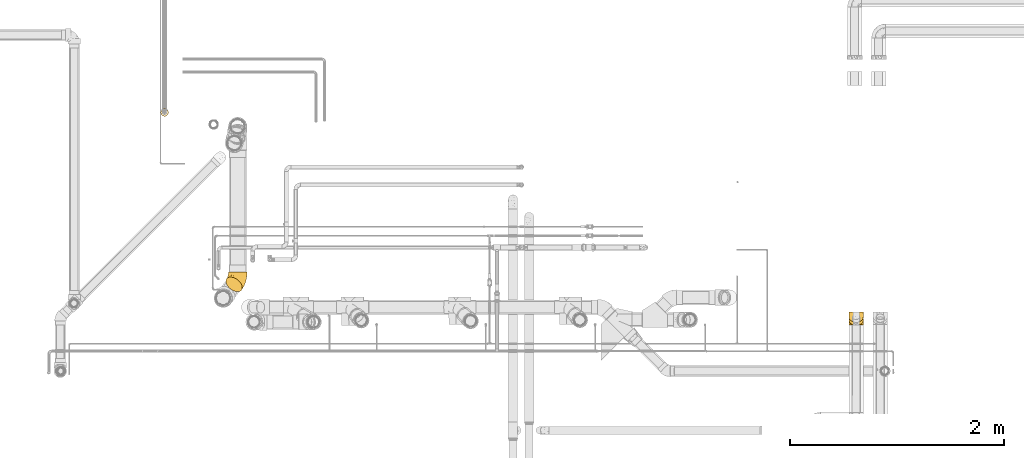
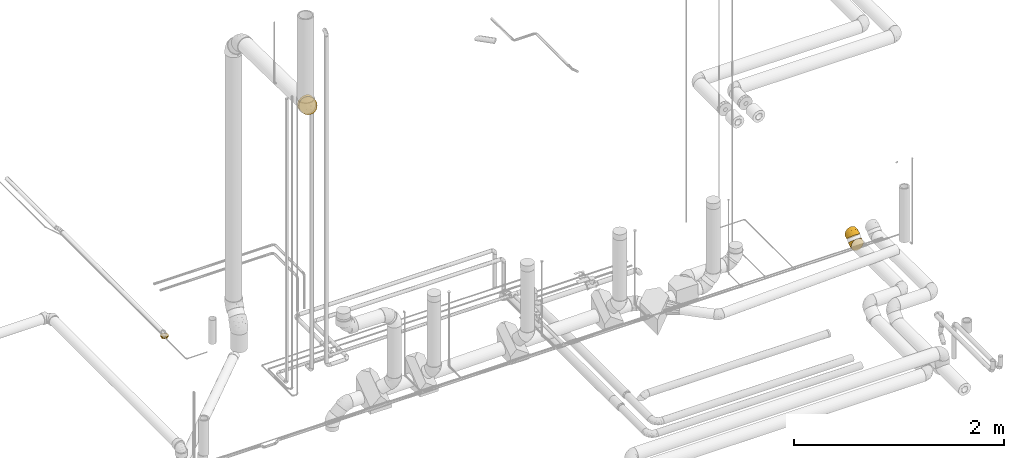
# One storey, part 24 of 156: 4 coverings.
"""IFC2X3 building model written with IfcOpenShell, lengths in millimetres."""

from ifc_helpers import new_model, entity, si_unit, converted_unit, derived_unit, direction, frame, origin_with_axes, place, context, subcontext, project, spatial, open_shell, surface_model, source, transform, mapped, element, save


model = new_model("IFC2X3")

# Units and contexts
model_context = context("Model", 3, precision=0.01, world=frame((0.0, 4.29681676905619e-09, 0.0)), true_north=direction((4.01073788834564e-13, 1.0)))
plan_context = context("Plan", 3, precision=0.01, world=frame((0.0, 4.29681676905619e-09, 0.0)), true_north=direction((4.01073788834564e-13, 1.0)))
body_context = subcontext(model_context, "Body", "Model", "MODEL_VIEW")
ifc_project = project(units=[converted_unit("PLANEANGLEUNIT", "DEGREE", entity("IfcPositiveLengthMeasure", 0.0174532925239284), si_unit("PLANEANGLEUNIT", "RADIAN"), dimensions=[0, 0, 0, 0, 0, 0, 0]), si_unit("AREAUNIT", "SQUARE_METRE"), si_unit("LENGTHUNIT", "METRE", prefix="MILLI"), si_unit("MASSUNIT", "GRAM", prefix="KILO"), si_unit("POWERUNIT", "WATT"), si_unit("PRESSUREUNIT", "PASCAL", prefix="KILO"), si_unit("FORCEUNIT", "NEWTON", prefix="KILO"), si_unit("ELECTRICVOLTAGEUNIT", "VOLT"), si_unit("ELECTRICCURRENTUNIT", "AMPERE"), si_unit("THERMODYNAMICTEMPERATUREUNIT", "DEGREE_CELSIUS"), si_unit("TIMEUNIT", "SECOND"), si_unit("VOLUMEUNIT", "CUBIC_METRE"), derived_unit("LINEARVELOCITYUNIT", [(si_unit("LENGTHUNIT", "METRE"), 1), (si_unit("TIMEUNIT", "SECOND"), -1)]), derived_unit("VOLUMETRICFLOWRATEUNIT", [(si_unit("VOLUMEUNIT", "CUBIC_METRE"), 1), (si_unit("TIMEUNIT", "SECOND"), -1)]), derived_unit("THERMALTRANSMITTANCEUNIT", [(si_unit("POWERUNIT", "WATT"), 1), (si_unit("THERMODYNAMICTEMPERATUREUNIT", "KELVIN"), -1), (si_unit("AREAUNIT", "SQUARE_METRE"), -1)]), derived_unit("SOUNDPRESSUREUNIT", [(si_unit("PRESSUREUNIT", "PASCAL"), 1)])], contexts=[model_context, plan_context])

# Site, building, storey
site_placement = place(None, frame((0.0, -4.29681676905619e-09, 0.0), z_axis=(0.0, 0.0, 1.0), x_axis=(1.0, 0.0, 0.0)))
site = spatial("IfcSite", under=ifc_project, at=site_placement, CompositionType="ELEMENT")
building_placement = place(site_placement, frame((0.0, 4.29681676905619e-09, 0.0), z_axis=(0.0, 0.0, 1.0), x_axis=(1.0, 0.0, 0.0)))
building = spatial("IfcBuilding", under=site, at=building_placement, Name="mc-building", CompositionType="ELEMENT")
storey_placement = place(building_placement, frame((0.0, 0.0, 205200.0), z_axis=(0.0, 0.0, 1.0), x_axis=(1.0, 0.0, 0.0)))
storey = spatial("IfcBuildingStorey", under=building, at=storey_placement, Name="Nivå D + 1,2 m", CompositionType="ELEMENT", Elevation=205200.0)

# Coverings
shared_shape_1 = source(origin_with_axes(), body_context, "Body", "SurfaceModel", [
    surface_model("IfcShellBasedSurfaceModel", [(-22.21356, 109.13223, 15.15456), (-19.15277, 106.65497, 29.84685), (-7.37421, 97.12198, 56.08822), (-19.15516, 106.65691, -29.83841), (-23.24442, 109.96656, 0.0), (-14.15559, 102.61051, 43.63085), (21.3822, 73.84793, 81.98922), (-14.1599, 102.61399, -43.62124), (0.98519, 90.35629, 66.84099), (10.66867, 82.51895, 75.56289), (32.80056, 64.60646, 85.92482), (44.57591, 55.07607, -87.25), (0.97795, 90.36214, -66.83318), (-7.38028, 97.12689, -56.07891), (-22.21434, 109.13286, -15.14884), (10.6612, 82.525, -75.55734), (32.79611, 64.61006, -85.92382), (21.37564, 73.85324, -81.98615), (44.57591, 55.07607, 87.25), (56.3557, 45.54207, 85.92382), (67.77617, 36.29889, 81.98615), (78.49061, 27.62714, 75.55734), (88.16662, 19.79585, -66.84099), (96.5321, 13.02524, 56.07891), (108.30697, 3.49522, 29.83841), (111.36616, 1.01926, 15.14884), (103.31172, 7.53814, 43.62124), (88.17386, 19.78999, 66.83318), (111.36538, 1.0199, -15.15456), (78.48315, 27.63319, -75.56289), (56.35125, 45.54567, -85.92482), (67.76961, 36.3042, -81.98922), (103.3074, 7.54163, -43.63085), (96.52602, 13.03015, -56.08822), (108.30458, 3.49716, -29.84685), (112.39623, 0.18557, 0.0), (-70.85467, 84.27703, -22.58196), (-70.85467, 61.69507, 61.69507), (-70.85467, 87.25, 0.0), (-70.85467, 61.69507, -61.69507), (-70.85467, 75.56072, -43.625), (-70.85467, 43.625, -75.56072), (-70.85467, 22.58196, -84.27703), (-70.85467, 84.27703, 22.58196), (-70.85467, 75.56072, 43.625), (-70.85467, 22.58196, 84.27703), (-70.85467, 43.625, 75.56072), (-70.85467, 0.0, 87.25), (-70.85467, -22.58196, -84.27703), (-70.85467, -61.69507, -61.69507), (-70.85467, -43.625, -75.56072), (-70.85467, -84.27703, -22.58196), (-70.85467, -75.56072, -43.625), (-70.85467, -22.58196, 84.27703), (-70.85467, -43.625, 75.56072), (-70.85467, -75.56072, 43.625), (-70.85467, -61.69507, 61.69507), (-70.85467, -87.25, 0.0), (-70.85467, -84.27703, 22.58196), (-70.85467, 0.0, -87.25), (67.86408, -32.77079, 35.37128), (24.80087, -51.9765, 46.81339), (35.20738, -55.0358, 32.39661), (-18.81024, -81.43356, 0.0), (-31.79079, -81.46484, 20.69914), (4.73261, -71.13233, 24.3776), (30.66611, -64.27123, 0.0), (53.03014, -49.98966, 17.49613), (-21.53708, -49.18442, 67.53321), (-25.21123, -65.54723, 51.59539), (11.11356, -23.28834, 76.56253), (46.55145, 1.97483, 77.91799), (16.7774, 2.71907, 84.53595), (84.57464, -25.26237, 21.20345), (-22.7929, -20.58251, 82.87538), (-38.07165, 3.66381, 87.25), (-25.46965, -36.2811, 76.60007), (-29.67477, -75.77367, 35.89797), (16.7279, -43.26945, 61.06093), (-6.90627, 14.47443, 87.25), (75.13299, -36.60987, 0.0), (54.98712, -22.11943, 59.82784), (21.10362, 31.89845, 87.25), (-51.3909, 55.12137, 69.22008), (-50.15771, 71.96934, 53.11443), (-30.78542, 32.98653, 83.21254), (-2.12923, 38.02072, 85.29012), (-28.45471, 59.63761, 71.47388), (-49.90973, 40.02601, 78.52935), (-49.27757, 88.88555, 19.24604), (-32.00175, 97.36094, 22.58668), (-44.47865, 93.22009, 0.0), (-3.99908, 59.10445, 79.07691), (-39.88076, 86.3649, 36.87919), (-56.08082, 90.594, 0.0), (-26.35974, 93.10558, 40.17859), (-55.16574, 81.33977, 35.87878), (-18.86431, 78.98133, 61.69936), (-34.59266, 71.58011, 59.8769), (-33.86153, 101.59333, 0.0), (-54.67732, 70.88815, -53.11443), (-45.95314, 56.42221, -69.22008), (-49.44871, 89.35837, -16.8693), (-34.62511, 95.47241, -22.57953), (-28.50997, 26.42676, -85.09065), (-44.77725, 39.30622, -79.3697), (-21.05681, 48.60317, -79.07267), (-3.02019, 64.04877, -77.44832), (-37.68465, 78.98185, -50.04045), (-53.61238, 82.83448, -33.38913), (-24.76884, 89.88688, -46.32111), (-38.07165, 3.66381, -87.25), (5.31752, 48.24052, -84.27577), (-6.90627, 14.47443, -87.25), (21.10362, 31.89845, -87.25), (-33.06427, 68.33804, -63.46117), (-18.86946, 78.98822, -61.69077), (-12.67052, -11.32645, -84.53713), (4.73196, -71.131, -24.38266), (53.02975, -49.98879, -17.50079), (-32.54201, -32.24987, -79.3559), (11.10744, -23.28191, -76.56714), (-29.6774, -75.77345, -35.8995), (24.7962, -51.9722, -46.82265), (-21.52798, -49.18255, -67.53289), (-31.78955, -81.46438, -20.70017), (-25.21617, -65.54816, -51.59556), (54.98045, -22.11432, -59.8364), (47.39432, -0.58521, -76.59237), (31.24713, 7.15399, -83.32777), (84.57371, -25.26023, -21.21231), (67.8603, -32.76872, -35.38015), (19.87472, -35.62584, -66.25842), (35.20169, -55.03458, -32.40588)], [open_shell([[[0, 1, 2]], [[0, 3, 4]], [[2, 1, 5]], [[6, 7, 0]], [[2, 8, 9]], [[2, 9, 6]], [[0, 2, 6]], [[10, 11, 6]], [[3, 0, 7]], [[12, 13, 7]], [[3, 14, 4]], [[15, 12, 16]], [[15, 16, 17]], [[12, 7, 16]], [[7, 6, 16]], [[6, 11, 16]], [[10, 18, 11]], [[18, 19, 20]], [[20, 21, 18]], [[11, 21, 22]], [[22, 21, 23]], [[24, 25, 23]], [[24, 23, 26]], [[23, 21, 27]], [[28, 23, 25]], [[22, 29, 30]], [[31, 30, 29]], [[11, 22, 30]], [[32, 22, 28]], [[32, 33, 22]], [[32, 28, 34]], [[23, 28, 22]], [[25, 35, 28]], [[11, 18, 21]], [[36, 37, 38]], [[39, 36, 40]], [[37, 36, 41]], [[41, 36, 39]], [[37, 41, 42]], [[43, 37, 44]], [[43, 38, 37]], [[37, 45, 46]], [[42, 45, 37]], [[42, 47, 45]], [[42, 48, 47]], [[48, 49, 47]], [[49, 48, 50]], [[51, 47, 52]], [[47, 49, 52]], [[53, 47, 51]], [[54, 55, 56]], [[57, 54, 53]], [[55, 57, 58]], [[57, 55, 54]], [[53, 51, 57]], [[48, 42, 59]], [[60, 61, 62]], [[57, 63, 64]], [[65, 63, 66]], [[67, 65, 66]], [[54, 56, 68]], [[55, 69, 56]], [[70, 71, 72]], [[60, 67, 73]], [[74, 75, 53]], [[68, 70, 76]], [[61, 69, 77]], [[78, 70, 68]], [[74, 79, 75]], [[75, 47, 53]], [[74, 70, 72]], [[19, 72, 20]], [[74, 76, 70]], [[64, 65, 77]], [[67, 66, 80]], [[71, 27, 21]], [[81, 60, 23]], [[23, 60, 26]], [[73, 80, 25]], [[81, 27, 71]], [[24, 60, 73]], [[25, 80, 35]], [[76, 53, 54]], [[74, 72, 79]], [[64, 77, 58]], [[67, 60, 62]], [[82, 19, 18]], [[79, 72, 82]], [[81, 71, 70]], [[23, 27, 81]], [[72, 19, 82]], [[71, 21, 20]], [[77, 69, 55]], [[81, 78, 61]], [[81, 61, 60]], [[69, 68, 56]], [[69, 61, 78]], [[60, 24, 26]], [[58, 77, 55]], [[72, 71, 20]], [[61, 77, 65]], [[57, 64, 58]], [[63, 65, 64]], [[80, 73, 67]], [[24, 73, 25]], [[53, 76, 74]], [[54, 68, 76]], [[61, 65, 62]], [[67, 62, 65]], [[70, 78, 81]], [[69, 78, 68]], [[83, 84, 37]], [[45, 47, 75]], [[85, 75, 79]], [[86, 85, 79]], [[87, 83, 88]], [[46, 83, 37]], [[89, 90, 91]], [[92, 87, 85]], [[89, 93, 90]], [[89, 91, 94]], [[1, 90, 95]], [[45, 75, 85]], [[93, 89, 96]], [[84, 93, 96]], [[95, 2, 5]], [[97, 98, 87]], [[86, 79, 82]], [[44, 84, 96]], [[97, 92, 8]], [[92, 9, 8]], [[6, 92, 86]], [[10, 82, 18]], [[98, 97, 95]], [[98, 93, 84]], [[85, 86, 92]], [[94, 43, 89]], [[8, 2, 97]], [[45, 85, 88]], [[92, 97, 87]], [[2, 95, 97]], [[0, 99, 90]], [[44, 37, 84]], [[10, 86, 82]], [[93, 95, 90]], [[86, 10, 6]], [[0, 90, 1]], [[96, 43, 44]], [[92, 6, 9]], [[43, 96, 89]], [[94, 38, 43]], [[88, 83, 46]], [[83, 87, 98]], [[95, 93, 98]], [[1, 95, 5]], [[45, 88, 46]], [[87, 88, 85]], [[99, 0, 4]], [[99, 91, 90]], [[83, 98, 84]], [[100, 101, 39]], [[91, 102, 94]], [[40, 100, 39]], [[103, 102, 91]], [[104, 105, 106]], [[107, 12, 15]], [[103, 108, 109]], [[110, 3, 7]], [[59, 42, 111]], [[36, 38, 94]], [[106, 112, 104]], [[107, 17, 112]], [[111, 42, 104]], [[106, 105, 101]], [[113, 112, 114]], [[115, 106, 101]], [[4, 14, 99]], [[100, 108, 115]], [[13, 12, 116]], [[12, 107, 116]], [[14, 3, 103]], [[110, 7, 13]], [[105, 42, 41]], [[108, 100, 109]], [[110, 13, 116]], [[113, 111, 104]], [[17, 16, 112]], [[116, 108, 110]], [[40, 36, 109]], [[113, 104, 112]], [[16, 11, 114]], [[16, 114, 112]], [[94, 102, 36]], [[107, 112, 106]], [[41, 39, 101]], [[116, 115, 108]], [[36, 102, 109]], [[14, 103, 99]], [[109, 100, 40]], [[103, 109, 102]], [[42, 105, 104]], [[41, 101, 105]], [[108, 103, 110]], [[3, 110, 103]], [[107, 106, 115]], [[17, 107, 15]], [[103, 91, 99]], [[115, 116, 107]], [[100, 115, 101]], [[117, 48, 111]], [[118, 119, 66]], [[120, 48, 117]], [[117, 121, 120]], [[113, 117, 111]], [[59, 111, 48]], [[122, 123, 118]], [[50, 124, 49]], [[57, 51, 125]], [[123, 122, 126]], [[48, 120, 50]], [[126, 122, 52]], [[122, 51, 52]], [[124, 50, 120]], [[22, 127, 128]], [[118, 66, 63]], [[124, 120, 121]], [[129, 113, 114]], [[129, 114, 30]], [[130, 119, 131]], [[114, 11, 30]], [[49, 126, 52]], [[124, 132, 126]], [[129, 117, 113]], [[22, 33, 127]], [[131, 133, 123]], [[122, 125, 51]], [[129, 128, 121]], [[132, 124, 121]], [[33, 131, 127]], [[131, 123, 127]], [[33, 32, 131]], [[128, 31, 29]], [[133, 119, 118]], [[28, 35, 80]], [[123, 126, 132]], [[66, 119, 80]], [[130, 80, 119]], [[132, 128, 127]], [[32, 34, 131]], [[121, 117, 129]], [[31, 129, 30]], [[124, 126, 49]], [[130, 34, 28]], [[122, 118, 125]], [[118, 63, 125]], [[57, 125, 63]], [[31, 128, 129]], [[128, 29, 22]], [[34, 130, 131]], [[80, 130, 28]], [[119, 133, 131]], [[118, 123, 133]], [[128, 132, 121]], [[123, 132, 127]]])]),
])
covering_1_placement = place(storey_placement, frame((324308.8595, 462982.08154, 7541.05024000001), z_axis=(-0.782815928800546, -0.0103689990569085, -0.622166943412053), x_axis=(-1.81753429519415e-07, -0.999861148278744, 0.0166638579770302)))
element("IfcCovering", 1, at=covering_1_placement, inside=storey, Name="BI17T - Cellegummi 13 mm SPV fett", PredefinedType="INSULATION", context=body_context, shape_type="MappedRepresentation", body=[
    mapped(shared_shape_1, transform((0.0, 0.0, 0.0), scale=1.0)),
])
shared_shape_2 = source(origin_with_axes(), body_context, "Body", "SurfaceModel", [
    surface_model("IfcShellBasedSurfaceModel", [(-26.92388, 57.87557, 34.73714), (-26.92388, 33.25277, 58.74099), (-26.92388, 47.11836, 48.33333), (-26.92388, 64.81475, 18.84935), (-26.92388, 64.81475, -18.84935), (-26.92388, 0.0, 67.5), (-26.92388, 17.19351, 65.27353), (-26.92388, -58.45672, -33.75), (-26.92388, -17.47029, -65.19999), (-26.92388, -33.75, -58.45672), (-26.92388, -47.72971, -47.72971), (-26.92388, -58.45672, 33.75), (-26.92388, -67.5, 0.0), (-26.92388, -65.19999, 17.47029), (-21.88615, 59.96226, -34.73714), (-26.83126, 64.90738, -18.84935), (-26.79289, 64.86901, 18.84935), (-14.27965, 52.35577, 48.33333), (-4.4752, 42.55132, 58.74099), (-21.88615, 59.96226, 34.73714), (42.90291, -4.82679, -58.45672), (31.39142, 6.6847, -65.19999), (60.3732, -22.29708, -33.75), (52.78806, -14.71194, -47.72971), (66.76777, -28.69165, 0.0), (65.14142, -27.0653, -17.47029), (-17.24708, 26.63533, -62.52499), (-26.92388, 17.19351, -65.27353), (-26.92388, 33.25277, -58.74099), (-20.86956, 54.56437, -41.88204), (-26.88225, 60.09848, -29.68711), (-26.84061, 62.32138, -24.63708), (6.88041, 31.19571, -65.27353), (19.03806, 19.03806, -67.5), (10.95362, 13.63621, -67.5), (-2.88083, 18.40375, -66.31994), (-12.63723, 13.703, -66.46933), (-17.38764, 1.89688, -67.5), (-26.92388, 0.0, -67.5), (-17.55621, 42.38444, -53.98417), (-7.0687, 30.77632, -62.52499), (-14.27965, 52.35577, -48.33333), (-4.4752, 42.55132, -58.74099), (-12.89743, 44.93821, -53.98417), (-26.92388, 57.87557, -34.73714), (-23.16554, 51.91787, -43.76586), (-2.04946, 4.94783, -67.5), (-22.65626, 40.89597, -53.98417), (-26.92388, 47.11836, -48.33333), (-26.79289, 64.86901, -18.84935), (18.44376, -44.52716, -41.0914), (-1.14578, -37.91197, -53.55135), (26.12182, -26.87784, -53.55135), (-4.43545, -9.52295, -66.2671), (13.59116, -2.12316, -66.156), (5.99678, -19.65533, -62.36187), (-3.82332, -60.24939, -25.83113), (-3.79342, -53.48444, -38.09739), (-14.67022, 2.4374, -67.5), (-26.92388, -65.19999, -17.47029), (-2.15176, -63.92927, -12.73631), (22.51741, -54.36183, -20.85864), (24.52968, -11.62224, -61.73502), (8.4943, 11.99295, -67.5), (40.50156, -35.13685, -38.09739), (-11.40858, -21.90434, -63.359), (45.30625, -39.89926, -25.83113), (39.32612, -49.74837, 0.0), (46.72634, -43.6833, -12.73631), (7.36964, -62.98517, 0.0), (-3.79342, -53.48444, 38.09739), (-3.82332, -60.24939, 25.83113), (18.44376, -44.52716, 41.0914), (-2.15176, -63.92927, 12.73631), (22.51741, -54.36183, 20.85864), (-11.40858, -21.90434, 63.359), (-1.14578, -37.91197, 53.55135), (5.99678, -19.65533, 62.36187), (52.78806, -14.71194, 47.72971), (42.90291, -4.82679, 58.45672), (26.12182, -26.87784, 53.55135), (-4.43545, -9.52295, 66.2671), (24.52968, -11.62224, 61.73502), (13.59116, -2.12316, 66.156), (31.39142, 6.6847, 65.19999), (-26.92388, -47.72971, 47.72971), (-26.92388, -17.47029, 65.19999), (-26.92388, -33.75, 58.45672), (45.30625, -39.89926, 25.83113), (40.50156, -35.13685, 38.09739), (65.14142, -27.0653, 17.47029), (46.72634, -43.6833, 12.73631), (-14.67022, 2.4374, 67.5), (19.03806, 19.03806, 67.5), (8.4943, 11.99295, 67.5), (-2.04946, 4.94783, 67.5), (60.3732, -22.29708, 33.75), (-16.76382, 26.76047, 62.52499), (-17.55621, 42.38445, 53.98417), (-22.65626, 40.89597, 53.98417), (-6.63849, 31.02955, 62.52499), (-12.89743, 44.93821, 53.98417), (-25.0887, 63.04705, 24.63708), (-23.82583, 53.33984, 41.88204), (-20.33097, 53.09199, 43.76586), (-17.38764, 1.89688, 67.5), (-10.97637, 15.05047, 66.31994), (-0.75362, 18.62536, 66.46933), (6.88041, 31.19571, 65.27353), (10.95362, 13.63621, 67.5), (-23.48742, 61.50466, 29.68711)], [open_shell([[[0, 1, 2]], [[0, 3, 4]], [[1, 5, 6]], [[7, 8, 9]], [[7, 9, 10]], [[11, 12, 13]], [[14, 15, 16]], [[17, 18, 19]], [[20, 21, 22]], [[23, 20, 22]], [[24, 25, 22]], [[26, 27, 28]], [[29, 30, 31]], [[32, 33, 34]], [[32, 34, 35]], [[36, 27, 26]], [[37, 38, 27]], [[39, 40, 26]], [[41, 42, 43]], [[44, 30, 45]], [[37, 36, 46]], [[29, 39, 45]], [[31, 14, 29]], [[30, 29, 45]], [[47, 28, 48]], [[35, 46, 36]], [[31, 49, 14]], [[43, 29, 41]], [[40, 39, 43]], [[36, 26, 35]], [[29, 14, 41]], [[26, 28, 47]], [[42, 32, 40]], [[27, 36, 37]], [[35, 26, 40]], [[32, 35, 40]], [[34, 46, 35]], [[47, 45, 39]], [[44, 45, 48]], [[45, 47, 48]], [[26, 47, 39]], [[40, 43, 42]], [[29, 43, 39]], [[50, 51, 52]], [[10, 9, 51]], [[53, 54, 55]], [[50, 56, 57]], [[53, 8, 58]], [[50, 57, 51]], [[59, 60, 12]], [[56, 60, 59]], [[56, 50, 61]], [[56, 59, 7]], [[51, 55, 52]], [[62, 52, 55]], [[46, 53, 58]], [[54, 63, 33]], [[52, 23, 64]], [[54, 62, 55]], [[54, 53, 46]], [[54, 33, 21]], [[53, 55, 65]], [[51, 9, 65]], [[52, 20, 23]], [[64, 66, 50]], [[24, 67, 68]], [[66, 64, 22]], [[8, 38, 58]], [[51, 65, 55]], [[53, 65, 8]], [[9, 8, 65]], [[21, 20, 62]], [[56, 7, 57]], [[60, 61, 69]], [[7, 10, 57]], [[51, 57, 10]], [[61, 60, 56]], [[12, 60, 69]], [[68, 66, 25]], [[50, 66, 61]], [[52, 64, 50]], [[23, 22, 64]], [[24, 68, 25]], [[61, 68, 67]], [[21, 62, 54]], [[52, 62, 20]], [[54, 46, 63]], [[70, 71, 72]], [[12, 69, 73]], [[11, 71, 70]], [[74, 71, 73]], [[75, 76, 77]], [[78, 79, 80]], [[77, 81, 75]], [[77, 82, 83]], [[76, 72, 80]], [[82, 84, 83]], [[76, 85, 70]], [[86, 75, 81]], [[69, 67, 74]], [[76, 75, 87]], [[72, 88, 89]], [[90, 91, 24]], [[92, 5, 86]], [[88, 91, 90]], [[86, 81, 92]], [[72, 89, 80]], [[83, 93, 94]], [[82, 80, 79]], [[92, 81, 95]], [[81, 83, 95]], [[87, 85, 76]], [[77, 76, 80]], [[88, 90, 96]], [[86, 87, 75]], [[77, 83, 81]], [[88, 96, 89]], [[91, 74, 67]], [[96, 78, 89]], [[80, 89, 78]], [[74, 91, 88]], [[24, 91, 67]], [[73, 71, 13]], [[72, 71, 74]], [[76, 70, 72]], [[85, 11, 70]], [[12, 73, 13]], [[74, 73, 69]], [[80, 82, 77]], [[84, 82, 79]], [[93, 83, 84]], [[94, 95, 83]], [[97, 98, 99]], [[100, 18, 101]], [[102, 0, 103]], [[1, 6, 97]], [[103, 98, 104]], [[105, 106, 6]], [[107, 108, 100]], [[3, 0, 102]], [[6, 5, 105]], [[107, 100, 106]], [[95, 109, 107]], [[2, 103, 0]], [[93, 108, 109]], [[98, 97, 100]], [[104, 19, 110]], [[103, 110, 102]], [[18, 17, 101]], [[1, 99, 2]], [[106, 95, 107]], [[100, 108, 18]], [[110, 103, 104]], [[103, 2, 99]], [[108, 107, 109]], [[106, 100, 97]], [[6, 106, 97]], [[105, 95, 106]], [[101, 104, 98]], [[19, 104, 17]], [[97, 99, 1]], [[103, 99, 98]], [[104, 101, 17]], [[100, 101, 98]], [[86, 5, 4]], [[11, 48, 28]], [[44, 87, 4]], [[48, 85, 44]], [[1, 0, 4]], [[5, 1, 4]], [[11, 28, 27]], [[8, 12, 38]], [[8, 7, 12]], [[59, 12, 7]], [[85, 87, 44]], [[86, 4, 87]], [[85, 48, 11]], [[27, 12, 11]], [[12, 27, 38]], [[16, 84, 14]], [[41, 14, 78]], [[41, 96, 42]], [[32, 42, 96]], [[93, 19, 18]], [[93, 18, 108]], [[93, 16, 19]], [[24, 33, 32]], [[21, 24, 22]], [[24, 32, 96]], [[16, 93, 84]], [[14, 84, 79]], [[41, 78, 96]], [[79, 78, 14]], [[24, 96, 90]], [[21, 33, 24]], [[61, 66, 68]], [[61, 67, 69]], [[22, 25, 66]], [[88, 72, 74]], [[71, 11, 13]]])]),
])
covering_2_placement = place(storey_placement, frame((330095.2903, 462651.63155, 4230.5), z_axis=(0.999999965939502, 0.0, -0.00026099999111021), x_axis=(0.0, -1.0, 0.0)))
element("IfcCovering", 2, at=covering_2_placement, inside=storey, Name="BI10T - Cellegummi 18-32 mm kalde rør", PredefinedType="INSULATION", context=body_context, shape_type="MappedRepresentation", body=[
    mapped(shared_shape_2, transform((0.0, 0.0, 0.0), scale=1.0)),
])
shared_shape_3 = source(origin_with_axes(), body_context, "Body", "SurfaceModel", [
    surface_model("IfcShellBasedSurfaceModel", [(-26.92388, 57.87557, 34.73714), (-26.92388, 33.25277, 58.74099), (-26.92388, 47.11836, 48.33333), (-26.92388, -58.45672, -33.75), (-26.92388, -33.75, -58.45672), (-26.92388, -47.72971, -47.72971), (-21.88615, 59.96226, -34.73714), (-26.83126, 64.90738, -18.84935), (-26.79289, 64.86901, 18.84935), (-14.27965, 52.35577, 48.33333), (-4.4752, 42.55132, 58.74099), (-21.88615, 59.96226, 34.73714), (52.78806, -14.71194, -47.72971), (42.90291, -4.82679, -58.45672), (60.3732, -22.29708, -33.75), (-17.24708, 26.63533, -62.52499), (-26.92388, 17.19351, -65.27353), (-26.92388, 33.25277, -58.74099), (-20.86956, 54.56437, -41.88204), (-26.88225, 60.09848, -29.68711), (-26.84061, 62.32138, -24.63708), (6.88041, 31.19571, -65.27353), (19.03806, 19.03806, -67.5), (10.95362, 13.63621, -67.5), (-2.88083, 18.40375, -66.31994), (-12.63723, 13.703, -66.46933), (-17.38764, 1.89688, -67.5), (-26.92388, 0.0, -67.5), (-17.55621, 42.38444, -53.98417), (-7.0687, 30.77632, -62.52499), (-14.27965, 52.35577, -48.33333), (-4.4752, 42.55132, -58.74099), (-12.89743, 44.93821, -53.98417), (-26.92388, 57.87557, -34.73714), (-23.16554, 51.91787, -43.76586), (-2.04946, 4.94783, -67.5), (-22.65626, 40.89597, -53.98417), (-26.92388, 47.11836, -48.33333), (-26.79289, 64.86901, -18.84935), (18.44376, -44.52716, -41.0914), (-1.14578, -37.91197, -53.55135), (26.12182, -26.87784, -53.55135), (-4.43545, -9.52295, -66.2671), (13.59116, -2.12316, -66.156), (5.99678, -19.65533, -62.36187), (-3.82332, -60.24939, -25.83113), (-3.79342, -53.48444, -38.09739), (-26.92388, -17.47029, -65.19999), (-14.67022, 2.4374, -67.5), (-26.92388, -65.19999, -17.47029), (-2.15176, -63.92927, -12.73631), (-26.92388, -67.5, 0.0), (22.51741, -54.36183, -20.85864), (24.52968, -11.62224, -61.73502), (8.4943, 11.99295, -67.5), (40.50156, -35.13685, -38.09739), (31.39142, 6.6847, -65.19999), (-11.40858, -21.90434, -63.359), (39.32612, -49.74837, 0.0), (7.36964, -62.98517, 0.0), (45.30625, -39.89926, -25.83113), (46.72634, -43.6833, -12.73631), (66.76777, -28.69165, 0.0), (65.14142, -27.0653, -17.47029), (-3.79342, -53.48444, 38.09739), (-3.82332, -60.24939, 25.83113), (18.44376, -44.52716, 41.0914), (-2.15176, -63.92927, 12.73631), (-26.92388, -58.45672, 33.75), (22.51741, -54.36183, 20.85864), (-11.40858, -21.90434, 63.359), (-1.14578, -37.91197, 53.55135), (5.99678, -19.65533, 62.36187), (52.78806, -14.71194, 47.72971), (42.90291, -4.82679, 58.45672), (26.12182, -26.87784, 53.55135), (-4.43545, -9.52295, 66.2671), (24.52968, -11.62224, 61.73502), (13.59116, -2.12316, 66.156), (31.39142, 6.6847, 65.19999), (-26.92388, -47.72971, 47.72971), (-26.92388, -17.47029, 65.19999), (-26.92388, -33.75, 58.45672), (45.30625, -39.89926, 25.83113), (40.50156, -35.13685, 38.09739), (-26.92388, -65.19999, 17.47029), (65.14142, -27.0653, 17.47029), (46.72634, -43.6833, 12.73631), (-14.67022, 2.4374, 67.5), (-26.92388, 0.0, 67.5), (19.03806, 19.03806, 67.5), (8.4943, 11.99295, 67.5), (-2.04946, 4.94783, 67.5), (60.3732, -22.29708, 33.75), (-16.76382, 26.76047, 62.52499), (-17.55621, 42.38445, 53.98417), (-22.65626, 40.89597, 53.98417), (-6.63849, 31.02955, 62.52499), (-12.89743, 44.93821, 53.98417), (-25.0887, 63.04705, 24.63708), (-23.82583, 53.33984, 41.88204), (-26.92388, 17.19351, 65.27353), (-20.33097, 53.09199, 43.76586), (-17.38764, 1.89688, 67.5), (-10.97637, 15.05047, 66.31994), (-0.75362, 18.62536, 66.46933), (6.88041, 31.19571, 65.27353), (-26.92388, 64.81475, 18.84935), (10.95362, 13.63621, 67.5), (-23.48742, 61.50466, 29.68711), (-26.92388, 64.81475, -18.84935)], [open_shell([[[0, 1, 2]], [[3, 4, 5]], [[6, 7, 8]], [[9, 10, 11]], [[12, 13, 14]], [[15, 16, 17]], [[18, 19, 20]], [[21, 22, 23]], [[21, 23, 24]], [[25, 16, 15]], [[26, 27, 16]], [[28, 29, 15]], [[30, 31, 32]], [[33, 19, 34]], [[26, 25, 35]], [[18, 28, 34]], [[20, 6, 18]], [[19, 18, 34]], [[36, 17, 37]], [[24, 35, 25]], [[20, 38, 6]], [[32, 18, 30]], [[29, 28, 32]], [[25, 15, 24]], [[18, 6, 30]], [[15, 17, 36]], [[31, 21, 29]], [[16, 25, 26]], [[24, 15, 29]], [[21, 24, 29]], [[23, 35, 24]], [[36, 34, 28]], [[33, 34, 37]], [[34, 36, 37]], [[15, 36, 28]], [[29, 32, 31]], [[18, 32, 28]], [[39, 40, 41]], [[5, 4, 40]], [[42, 43, 44]], [[39, 45, 46]], [[42, 47, 48]], [[39, 46, 40]], [[49, 50, 51]], [[45, 50, 49]], [[45, 39, 52]], [[45, 49, 3]], [[40, 44, 41]], [[53, 41, 44]], [[35, 42, 48]], [[43, 54, 22]], [[41, 12, 55]], [[43, 53, 44]], [[43, 42, 35]], [[43, 22, 56]], [[42, 44, 57]], [[40, 4, 57]], [[58, 59, 52]], [[60, 61, 52]], [[41, 13, 12]], [[55, 60, 39]], [[62, 58, 61]], [[60, 55, 14]], [[60, 14, 63]], [[47, 27, 48]], [[40, 57, 44]], [[42, 57, 47]], [[4, 47, 57]], [[56, 13, 53]], [[45, 3, 46]], [[50, 52, 59]], [[3, 5, 46]], [[40, 46, 5]], [[52, 50, 45]], [[51, 50, 59]], [[61, 60, 63]], [[39, 60, 52]], [[41, 55, 39]], [[12, 14, 55]], [[62, 61, 63]], [[52, 61, 58]], [[56, 53, 43]], [[41, 53, 13]], [[43, 35, 54]], [[64, 65, 66]], [[51, 59, 67]], [[68, 65, 64]], [[69, 65, 67]], [[70, 71, 72]], [[73, 74, 75]], [[72, 76, 70]], [[72, 77, 78]], [[71, 66, 75]], [[77, 79, 78]], [[71, 80, 64]], [[81, 70, 76]], [[59, 58, 69]], [[71, 70, 82]], [[66, 83, 84]], [[66, 69, 83]], [[68, 85, 65]], [[86, 87, 62]], [[88, 89, 81]], [[83, 87, 86]], [[81, 76, 88]], [[66, 84, 75]], [[78, 90, 91]], [[77, 75, 74]], [[88, 76, 92]], [[76, 78, 92]], [[82, 80, 71]], [[72, 71, 75]], [[83, 86, 93]], [[81, 82, 70]], [[72, 78, 76]], [[83, 93, 84]], [[87, 69, 58]], [[93, 73, 84]], [[75, 84, 73]], [[69, 87, 83]], [[62, 87, 58]], [[67, 65, 85]], [[66, 65, 69]], [[71, 64, 66]], [[80, 68, 64]], [[51, 67, 85]], [[69, 67, 59]], [[75, 77, 72]], [[79, 77, 74]], [[90, 78, 79]], [[91, 92, 78]], [[94, 95, 96]], [[97, 10, 98]], [[99, 0, 100]], [[1, 101, 94]], [[100, 95, 102]], [[103, 104, 101]], [[105, 106, 97]], [[107, 0, 99]], [[101, 89, 103]], [[105, 97, 104]], [[92, 108, 105]], [[2, 100, 0]], [[90, 106, 108]], [[95, 94, 97]], [[102, 11, 109]], [[100, 109, 99]], [[10, 9, 98]], [[1, 96, 2]], [[104, 92, 105]], [[97, 106, 10]], [[109, 100, 102]], [[100, 2, 96]], [[106, 105, 108]], [[104, 97, 94]], [[101, 104, 94]], [[103, 92, 104]], [[98, 102, 95]], [[11, 102, 9]], [[94, 96, 1]], [[100, 96, 95]], [[102, 98, 9]], [[97, 98, 95]], [[81, 89, 110]], [[33, 82, 110]], [[37, 80, 33]], [[80, 82, 33]], [[81, 110, 82]], [[80, 37, 68]], [[62, 22, 21]], [[37, 17, 68]], [[1, 0, 107]], [[107, 101, 1]], [[101, 107, 89]], [[107, 110, 89]], [[17, 16, 85]], [[49, 27, 47]], [[49, 47, 4]], [[3, 49, 4]], [[27, 49, 51]], [[85, 68, 17]], [[51, 85, 16]], [[16, 27, 51]], [[6, 73, 30]], [[79, 6, 90]], [[31, 30, 93]], [[8, 11, 10]], [[10, 106, 8]], [[90, 8, 106]], [[90, 6, 8]], [[86, 21, 31]], [[56, 22, 63]], [[13, 56, 63]], [[13, 63, 14]], [[62, 63, 22]], [[6, 74, 73]], [[74, 6, 79]], [[31, 93, 86]], [[93, 30, 73]], [[21, 86, 62]]])]),
])
covering_3_placement = place(storey_placement, frame((330095.273, 462584.4701, 4163.33854999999), z_axis=(-0.999999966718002, 0.000257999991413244, 0.0), x_axis=(-0.000182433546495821, -0.707106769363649, -0.707106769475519)))
element("IfcCovering", 3, at=covering_3_placement, inside=storey, Name="BI10T - Cellegummi 18-32 mm kalde rør", PredefinedType="INSULATION", context=body_context, shape_type="MappedRepresentation", body=[
    mapped(shared_shape_3, transform((0.0, 0.0, 0.0), scale=1.0)),
])
shared_shape_4 = source(origin_with_axes(), body_context, "Body", "SurfaceModel", [
    surface_model("IfcShellBasedSurfaceModel", [(0.0, -32.21615, 18.6), (0.0, 0.0, 37.2), (0.0, 18.6, 32.21615), (0.0, -32.21615, -18.6), (0.0, -18.6, 32.21615), (0.0, -37.2, 0.0), (0.0, 32.21615, 18.6), (0.0, 37.2, 0.0), (0.0, 32.21615, -18.6), (0.0, 18.6, -32.21615), (0.0, 0.0, -37.2), (0.0, -18.6, -32.21615), (21.6, 18.6, 32.21615), (21.6, -18.6, 32.21615), (21.6, -32.21615, 18.6), (21.6, -37.2, 0.0), (21.6, 0.0, 37.2), (21.6, 32.21615, 18.6), (21.6, -32.21615, -18.6), (21.6, 37.2, 0.0), (21.6, -18.6, -32.21615), (21.6, 18.6, -32.21615), (21.6, 0.0, -37.2), (21.6, 32.21615, -18.6), (0.0, -34.70807, -9.3), (21.6, -35.15257, -7.64112), (0.0, -25.40807, -25.40807), (21.6, -9.3, -34.70807), (0.0, -7.64112, -35.15257), (21.6, -25.40807, -25.40807), (0.0, 9.3, -34.70807), (21.6, 7.64112, -35.15257), (0.0, 25.40807, -25.40807), (21.6, 34.70807, -9.3), (0.0, 35.15257, -7.64112), (21.6, 25.40807, -25.40807), (0.0, 34.70807, 9.3), (21.6, 35.15257, 7.64112), (0.0, 25.40807, 25.40807), (21.6, 9.3, 34.70807), (0.0, 7.64112, 35.15257), (21.6, 25.40807, 25.40807), (0.0, -9.3, 34.70807), (21.6, -7.64112, 35.15257), (0.0, -25.40807, 25.40807), (21.6, -34.70807, 9.3), (0.0, -35.15257, 7.64112), (21.6, -25.40807, 25.40807)], [open_shell([[[0, 1, 2]], [[2, 3, 0]], [[1, 0, 4]], [[5, 0, 3]], [[2, 6, 7]], [[7, 8, 9]], [[9, 3, 2]], [[3, 10, 11]], [[10, 3, 9]], [[9, 2, 7]], [[12, 13, 14]], [[12, 14, 15]], [[13, 12, 16]], [[12, 15, 17]], [[15, 18, 17]], [[19, 18, 20]], [[21, 20, 22]], [[19, 21, 23]], [[21, 19, 20]], [[18, 19, 17]], [[18, 24, 3]], [[5, 25, 15]], [[25, 5, 24]], [[20, 26, 11]], [[11, 27, 20]], [[27, 11, 28]], [[26, 20, 29]], [[28, 22, 27]], [[29, 18, 3]], [[29, 3, 26]], [[28, 10, 22]], [[18, 25, 24]], [[21, 30, 9]], [[10, 31, 22]], [[31, 10, 30]], [[23, 32, 8]], [[8, 33, 23]], [[33, 8, 34]], [[32, 23, 35]], [[34, 19, 33]], [[35, 21, 9]], [[35, 9, 32]], [[34, 7, 19]], [[21, 31, 30]], [[17, 36, 6]], [[7, 37, 19]], [[37, 7, 36]], [[12, 38, 2]], [[2, 39, 12]], [[39, 2, 40]], [[38, 12, 41]], [[40, 16, 39]], [[41, 17, 6]], [[41, 6, 38]], [[40, 1, 16]], [[17, 37, 36]], [[13, 42, 4]], [[1, 43, 16]], [[43, 1, 42]], [[14, 44, 0]], [[0, 45, 14]], [[45, 0, 46]], [[44, 14, 47]], [[46, 15, 45]], [[47, 13, 4]], [[47, 4, 44]], [[46, 5, 15]], [[13, 43, 42]]])]),
])
covering_4_placement = place(storey_placement, frame((323623.87367, 464546.93316, 4170.50902999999), z_axis=(-1.0, 0.0, 0.0), x_axis=(0.0, 0.0, -1.0)))
element("IfcCovering", 4, at=covering_4_placement, inside=storey, Name="BI15T - Cellegummi KV 15mm", PredefinedType="INSULATION", context=body_context, shape_type="MappedRepresentation", body=[
    mapped(shared_shape_4, transform((0.0, 0.0, 0.0), scale=1.0)),
])

save(model, "model.ifc")
